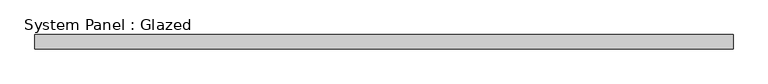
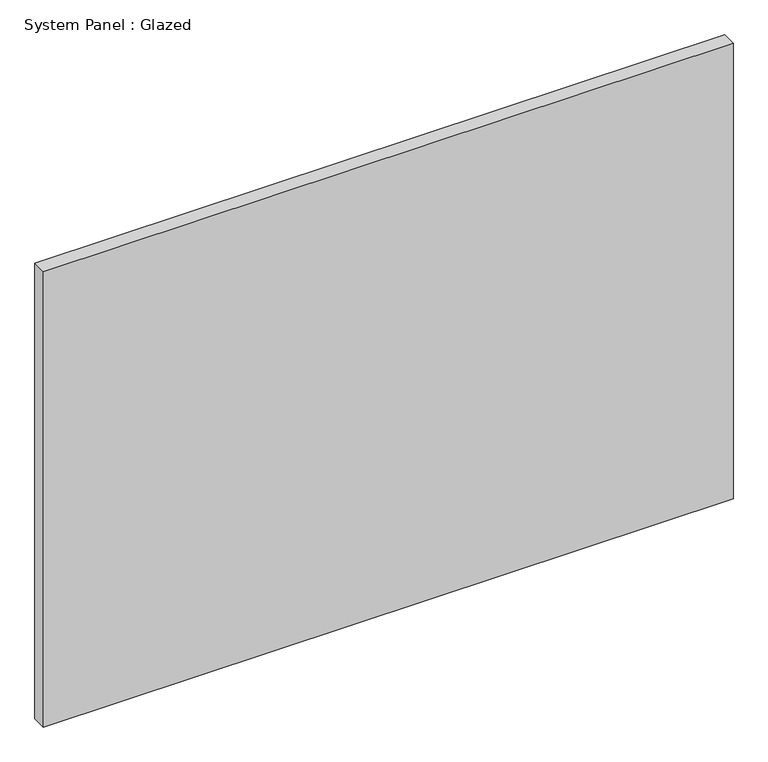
"""IFC4 building model written with IfcOpenShell, lengths in millimetres: plate geometry, System Panel : Glazed."""

import ifcopenshell
import ifcopenshell.guid

model = None  # the IFC model being written
_history = None  # IfcOwnerHistory: only IFC2X3 demands one
_inside = {}  # id of a spatial element -> (the spatial element, [elements in it])
_under = {}  # id of a project, library or spatial element -> (it, [spatial elements below it])
_declared = {}  # id of a project -> (the project, [libraries it declares])
_typed = {}  # id of a type object -> (the type object, [elements of that type])
_made_of = {}  # id of a material, layer set ... -> (it, [elements and type objects made of it])


def new_model(schema):
    """Start an empty IFC model of exactly this schema.

    Asked for "IFC4X3", IfcOpenShell would pick the latest addendum, in which some entities
    have other attributes; the version numbers below select the first issue.
    IFC2X3 requires an IfcOwnerHistory on every rooted entity: one is made here for all.
    """
    global model, _history
    if schema == "IFC4X3":
        model = ifcopenshell.file(schema_version=(4, 3, 0, 0))
    else:
        model = ifcopenshell.file(schema=schema)
    _inside.clear()
    _under.clear()
    _declared.clear()
    _typed.clear()
    _made_of.clear()
    _history = None
    if model.schema == "IFC2X3":
        org = make("IfcOrganization", Name="unknown")
        user = make(
            "IfcPersonAndOrganization",
            ThePerson=make("IfcPerson", FamilyName="unknown"),
            TheOrganization=org,
        )
        app = make(
            "IfcApplication",
            ApplicationDeveloper=org,
            Version="unknown",
            ApplicationFullName="unknown",
            ApplicationIdentifier="unknown",
        )
        _history = make(
            "IfcOwnerHistory",
            OwningUser=user,
            OwningApplication=app,
            ChangeAction="ADDED",
            CreationDate=0,
        )
    return model


def make(cls, **values):
    """One entity of the class cls with the attributes given. An attribute that is None is left unset."""
    return model.create_entity(
        cls, **{name: value for name, value in values.items() if value is not None}
    )


def rooted(cls, **values):
    """An entity with a GlobalId (a new one), such as an element, a storey or a relation."""
    return make(cls, GlobalId=ifcopenshell.guid.new(), OwnerHistory=_history, **values)


def si_unit(unit_type, name, prefix=None):
    """IfcSIUnit, for example si_unit("LENGTHUNIT", "METRE", prefix="MILLI")."""
    return make("IfcSIUnit", UnitType=unit_type, Prefix=prefix, Name=name)


def assignment(units):
    """IfcUnitAssignment: the units of a project."""
    return None if units is None else make("IfcUnitAssignment", Units=units)


def point(xyz):
    """IfcCartesianPoint."""
    return None if xyz is None else make("IfcCartesianPoint", Coordinates=xyz)


def direction(xyz):
    """IfcDirection."""
    return None if xyz is None else make("IfcDirection", DirectionRatios=xyz)


def frame(location, z_axis=None, x_axis=None):
    """IfcAxis2Placement3D, a coordinate frame: its origin and axes. An axis left out is left unset."""
    return make(
        "IfcAxis2Placement3D",
        Location=point(location),
        Axis=direction(z_axis),
        RefDirection=direction(x_axis),
    )


def origin():
    """The frame at (0, 0, 0) with its axes left unset."""
    return frame((0.0, 0.0, 0.0))


def origin_with_axes():
    """The frame at (0, 0, 0) with the z axis (0, 0, 1) and the x axis (1, 0, 0) written out."""
    return frame((0.0, 0.0, 0.0), z_axis=(0.0, 0.0, 1.0), x_axis=(1.0, 0.0, 0.0))


def place(relative_to, where):
    """IfcLocalPlacement: puts the frame where relative to a parent placement (None: the world)."""
    return make(
        "IfcLocalPlacement", PlacementRelTo=relative_to, RelativePlacement=where
    )


def context(
    kind, dimensions, precision=None, world=None, true_north=None, identifier=None
):
    """IfcGeometricRepresentationContext, for example the 3D "Model" context."""
    return make(
        "IfcGeometricRepresentationContext",
        ContextIdentifier=identifier,
        ContextType=kind,
        CoordinateSpaceDimension=dimensions,
        Precision=precision,
        WorldCoordinateSystem=world,
        TrueNorth=true_north,
    )


def project(units=None, contexts=None):
    """IfcProject with its units and contexts."""
    return rooted(
        "IfcProject",
        Name="project",
        RepresentationContexts=contexts,
        UnitsInContext=assignment(units),
    )


def spatial(cls, under=None, at=None, **own):
    """A site, building, storey or space (cls), placed at a placement, below another one or the project."""
    s = rooted(cls, ObjectPlacement=at, **own)
    if under is not None:
        _under.setdefault(under.id(), (under, []))[1].append(s)
    return s


def polyline(points):
    """IfcPolyline through the points."""
    return make("IfcPolyline", Points=[point(p) for p in points])


def outline(outer, holes=None, kind="AREA"):
    """IfcArbitraryClosedProfileDef: a profile drawn as a closed curve; with holes, ...WithVoids."""
    if holes is None:
        return make("IfcArbitraryClosedProfileDef", ProfileType=kind, OuterCurve=outer)
    return make(
        "IfcArbitraryProfileDefWithVoids",
        ProfileType=kind,
        OuterCurve=outer,
        InnerCurves=holes,
    )


def extrude(swept, where, along, depth):
    """IfcExtrudedAreaSolid: the profile swept, set in the frame where, extruded along a direction by depth."""
    return make(
        "IfcExtrudedAreaSolid",
        SweptArea=swept,
        Position=where,
        ExtrudedDirection=direction(along),
        Depth=depth,
    )


def shape(context_of_items, identifier, shape_type, items):
    """IfcShapeRepresentation: the items that make up one representation, for example the "Body"."""
    return make(
        "IfcShapeRepresentation",
        ContextOfItems=context_of_items,
        RepresentationIdentifier=identifier,
        RepresentationType=shape_type,
        Items=items,
    )


def source(mapping_origin, context_of_items, identifier, shape_type, items):
    """IfcRepresentationMap: a shape defined once, which mapped items show again and again."""
    return make(
        "IfcRepresentationMap",
        MappingOrigin=mapping_origin,
        MappedRepresentation=shape(context_of_items, identifier, shape_type, items),
    )


def transform(
    local_origin,
    x_axis=None,
    y_axis=None,
    z_axis=None,
    scale=None,
    scale2=None,
    scale3=None,
    uniform=True,
):
    """IfcCartesianTransformationOperator3D, or its non-uniform kind. x_axis, y_axis, z_axis: its Axis1, 2, 3."""
    if uniform:
        return make(
            "IfcCartesianTransformationOperator3D",
            Axis1=direction(x_axis),
            Axis2=direction(y_axis),
            LocalOrigin=point(local_origin),
            Scale=scale,
            Axis3=direction(z_axis),
        )
    return make(
        "IfcCartesianTransformationOperator3DnonUniform",
        Axis1=direction(x_axis),
        Axis2=direction(y_axis),
        LocalOrigin=point(local_origin),
        Scale=scale,
        Axis3=direction(z_axis),
        Scale2=scale2,
        Scale3=scale3,
    )


def mapped(mapping_source, mapping_target):
    """IfcMappedItem: shows the shape of a source again, moved by a transform."""
    return make(
        "IfcMappedItem", MappingSource=mapping_source, MappingTarget=mapping_target
    )


def made_of(thing, what):
    """Note that an element or type object is made of a material, layer set ...; save() writes the relation."""
    if what is not None:
        _made_of.setdefault(what.id(), (what, []))[1].append(thing)
    return thing


def element(
    cls,
    number,
    at=None,
    inside=None,
    cuts=None,
    type_object=None,
    material=None,
    context=None,
    identifier="Body",
    shape_type=None,
    held_by="IfcProductDefinitionShape",
    body=None,
    shapes=None,
    **own,
):
    """One element of the class cls, such as IfcWall. Its Tag is "e" and its number.

    at: its placement. inside: the storey or other place that contains it. cuts: it is an
    opening in that element (IfcRelVoidsElement). A single representation is given by context,
    identifier, shape_type and body (its items); several are given by shapes. held_by: the class
    of the entity that holds the representations. save() writes the other relations.
    """
    e = rooted(cls, Tag="e%d" % number, ObjectPlacement=at, **own)
    if body is not None:
        shapes = [shape(context, identifier, shape_type, body)]
    if shapes is not None:
        e.Representation = make(held_by, Representations=shapes)
    if inside is not None:
        _inside.setdefault(inside.id(), (inside, []))[1].append(e)
    if cuts is not None:
        rooted(
            "IfcRelVoidsElement", RelatingBuildingElement=cuts, RelatedOpeningElement=e
        )
    if type_object is not None:
        _typed.setdefault(type_object.id(), (type_object, []))[1].append(e)
    return made_of(e, material)


def aggregate(whole, parts):
    """IfcRelAggregates: a whole, such as a stair, and the parts it consists of."""
    return rooted("IfcRelAggregates", RelatingObject=whole, RelatedObjects=parts)


def save(model, path):
    """Write the relations noted so far, then the file.

    IfcRelAggregates (storeys below a building ...), IfcRelContainedInSpatialStructure (elements
    in a storey), IfcRelDefinesByType, IfcRelAssociatesMaterial and IfcRelDeclares: one each for
    every whole, place, type object, material and project.
    """
    for whole, parts in _under.values():
        aggregate(whole, parts)
    for where, things in _inside.values():
        rooted(
            "IfcRelContainedInSpatialStructure",
            RelatedElements=things,
            RelatingStructure=where,
        )
    for kind, things in _typed.values():
        rooted("IfcRelDefinesByType", RelatedObjects=things, RelatingType=kind)
    for what, things in _made_of.values():
        rooted("IfcRelAssociatesMaterial", RelatedObjects=things, RelatingMaterial=what)
    for by, libraries in _declared.values():
        rooted("IfcRelDeclares", RelatingContext=by, RelatedDefinitions=libraries)
    model.write(path)


def system_panel_glazed_8fe7ab7d(model_context):
    return source(origin(), model_context, "Body", "SweptSolid", [
        extrude(outline(polyline([(609.6, 19.05), (-609.6, 19.05), (-609.6, 44.45), (609.6, 44.45), (609.6, 19.05)])), origin_with_axes(), (0.0, 0.0, 1.0), 850.9),
    ])


if __name__ == "__main__":
    model = new_model("IFC4")
    model_context = context("Model", 3, world=origin())
    ifc_project = project(units=[si_unit("LENGTHUNIT", "METRE", prefix="MILLI")], contexts=[model_context])
    site = spatial("IfcSite", under=ifc_project)
    building = spatial("IfcBuilding", under=site)
    placement = place(None, origin())
    system_panel_glazed_shape = system_panel_glazed_8fe7ab7d(model_context)
    element("IfcPlate", 1, ObjectType="System Panel : Glazed", at=placement, inside=building, context=model_context, shape_type="MappedRepresentation", body=[
        mapped(system_panel_glazed_shape, transform((0.0, 0.0, 0.0), x_axis=(1.0, 0.0, 0.0), y_axis=(0.0, 1.0, 0.0), z_axis=(0.0, 0.0, 1.0))),
    ])
    save(model, "model.ifc")
